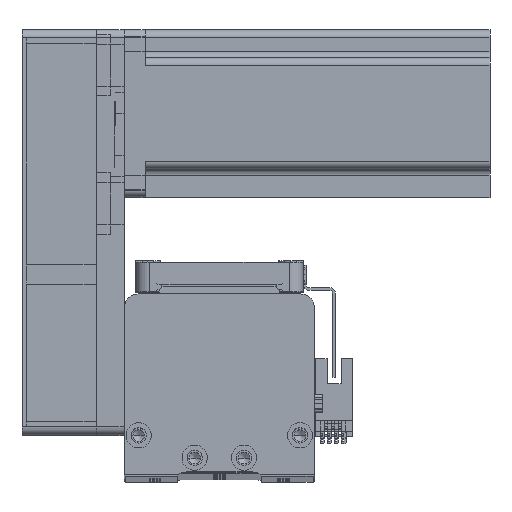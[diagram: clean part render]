
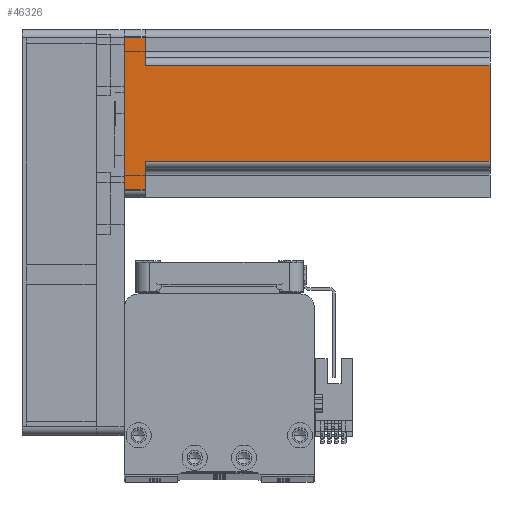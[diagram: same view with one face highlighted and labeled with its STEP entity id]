
A CAD part, top view. The second image highlights one B-rep face of the part: STEP entity #46326.
In plain terms, the highlighted planar face has unit normal (0, 0, 1) as drawn and (0, 1, 0) by its records, which use the part's own axes.
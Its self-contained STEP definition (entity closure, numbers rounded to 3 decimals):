
#70 = VECTOR ( 'NONE', #9388, 1000. ) ;
#1351 = EDGE_CURVE ( 'NONE', #31146, #21536, #21450, .T. ) ;
#1801 = ORIENTED_EDGE ( 'NONE', *, *, #15791, .T. ) ;
#2366 = ORIENTED_EDGE ( 'NONE', *, *, #46313, .T. ) ;
#3654 = CARTESIAN_POINT ( 'NONE',  ( -20., 30., 7.5 ) ) ;
#4399 = LINE ( 'NONE', #29073, #45466 ) ;
#5418 = CARTESIAN_POINT ( 'NONE',  ( -27., 30., 130.7 ) ) ;
#5514 = DIRECTION ( 'NONE',  ( -1., 0., 0. ) ) ;
#5726 = LINE ( 'NONE', #46752, #24352 ) ;
#9388 = DIRECTION ( 'NONE',  ( 0., 0., 1. ) ) ;
#9570 = CARTESIAN_POINT ( 'NONE',  ( 17., 30., 7.5 ) ) ;
#9761 = ORIENTED_EDGE ( 'NONE', *, *, #14845, .F. ) ;
#10217 = CARTESIAN_POINT ( 'NONE',  ( 27., 30., 7.5 ) ) ;
#11661 = CARTESIAN_POINT ( 'NONE',  ( -27., 30., 7.5 ) ) ;
#11662 = AXIS2_PLACEMENT_3D ( 'NONE', #42914, #19084, #46917 ) ;
#12821 = ORIENTED_EDGE ( 'NONE', *, *, #1351, .F. ) ;
#14178 = LINE ( 'NONE', #26008, #35311 ) ;
#14845 = EDGE_CURVE ( 'NONE', #32821, #46507, #4399, .T. ) ;
#15433 = CARTESIAN_POINT ( 'NONE',  ( 27., 30., 130.7 ) ) ;
#15633 = DIRECTION ( 'NONE',  ( 1., 0., 0. ) ) ;
#15791 = EDGE_CURVE ( 'NONE', #32821, #21536, #16727, .T. ) ;
#15968 = DIRECTION ( 'NONE',  ( 0., 0., -1. ) ) ;
#16727 = LINE ( 'NONE', #19928, #36612 ) ;
#19010 = VERTEX_POINT ( 'NONE', #28780 ) ;
#19084 = DIRECTION ( 'NONE',  ( 0., -1., 0. ) ) ;
#19509 = DIRECTION ( 'NONE',  ( -1., 0., 0. ) ) ;
#19928 = CARTESIAN_POINT ( 'NONE',  ( 17., 30., 130.7 ) ) ;
#20206 = CARTESIAN_POINT ( 'NONE',  ( 17., 30., 130.7 ) ) ;
#20841 = VECTOR ( 'NONE', #43235, 1000. ) ;
#21450 = LINE ( 'NONE', #27307, #38820 ) ;
#21536 = VERTEX_POINT ( 'NONE', #9570 ) ;
#21729 = EDGE_CURVE ( 'NONE', #31146, #19010, #42007, .T. ) ;
#22683 = ORIENTED_EDGE ( 'NONE', *, *, #27080, .T. ) ;
#22947 = DIRECTION ( 'NONE',  ( 0., 0., 1. ) ) ;
#23386 = CARTESIAN_POINT ( 'NONE',  ( -27., 30., 0. ) ) ;
#23857 = VERTEX_POINT ( 'NONE', #23386 ) ;
#23900 = VERTEX_POINT ( 'NONE', #11661 ) ;
#24352 = VECTOR ( 'NONE', #22947, 1000. ) ;
#25088 = VECTOR ( 'NONE', #15633, 1000. ) ;
#26008 = CARTESIAN_POINT ( 'NONE',  ( 30., 30., 0. ) ) ;
#26717 = PLANE ( 'NONE',  #11662 ) ;
#27080 = EDGE_CURVE ( 'NONE', #19010, #23857, #14178, .T. ) ;
#27307 = CARTESIAN_POINT ( 'NONE',  ( 20., 30., 7.5 ) ) ;
#27908 = VERTEX_POINT ( 'NONE', #30933 ) ;
#28519 = EDGE_CURVE ( 'NONE', #23900, #27908, #45015, .T. ) ;
#28780 = CARTESIAN_POINT ( 'NONE',  ( 27., 30., 0. ) ) ;
#29073 = CARTESIAN_POINT ( 'NONE',  ( 30., 30., 130.7 ) ) ;
#30933 = CARTESIAN_POINT ( 'NONE',  ( -17., 30., 7.5 ) ) ;
#31146 = VERTEX_POINT ( 'NONE', #10217 ) ;
#31693 = ORIENTED_EDGE ( 'NONE', *, *, #44820, .T. ) ;
#31727 = LINE ( 'NONE', #5418, #70 ) ;
#32821 = VERTEX_POINT ( 'NONE', #20206 ) ;
#32831 = EDGE_LOOP ( 'NONE', ( #48629, #2366, #9761, #1801, #12821, #51539, #22683, #31693 ) ) ;
#33867 = DIRECTION ( 'NONE',  ( -1., 0., 0. ) ) ;
#35311 = VECTOR ( 'NONE', #33867, 1000. ) ;
#36129 = CARTESIAN_POINT ( 'NONE',  ( -17., 30., 130.7 ) ) ;
#36612 = VECTOR ( 'NONE', #15968, 1000. ) ;
#38820 = VECTOR ( 'NONE', #19509, 1000. ) ;
#42007 = LINE ( 'NONE', #15433, #20841 ) ;
#42914 = CARTESIAN_POINT ( 'NONE',  ( 30., 30., 130.7 ) ) ;
#43235 = DIRECTION ( 'NONE',  ( 0., 0., -1. ) ) ;
#44266 = FACE_OUTER_BOUND ( 'NONE', #32831, .T. ) ;
#44820 = EDGE_CURVE ( 'NONE', #23857, #23900, #31727, .T. ) ;
#45015 = LINE ( 'NONE', #3654, #25088 ) ;
#45466 = VECTOR ( 'NONE', #5514, 1000. ) ;
#46313 = EDGE_CURVE ( 'NONE', #27908, #46507, #5726, .T. ) ;
#46326 = ADVANCED_FACE ( 'NONE', ( #44266 ), #26717, .F. ) ;
#46507 = VERTEX_POINT ( 'NONE', #36129 ) ;
#46752 = CARTESIAN_POINT ( 'NONE',  ( -17., 30., 130.7 ) ) ;
#46917 = DIRECTION ( 'NONE',  ( 1., 0., 0. ) ) ;
#48629 = ORIENTED_EDGE ( 'NONE', *, *, #28519, .T. ) ;
#51539 = ORIENTED_EDGE ( 'NONE', *, *, #21729, .T. ) ;
